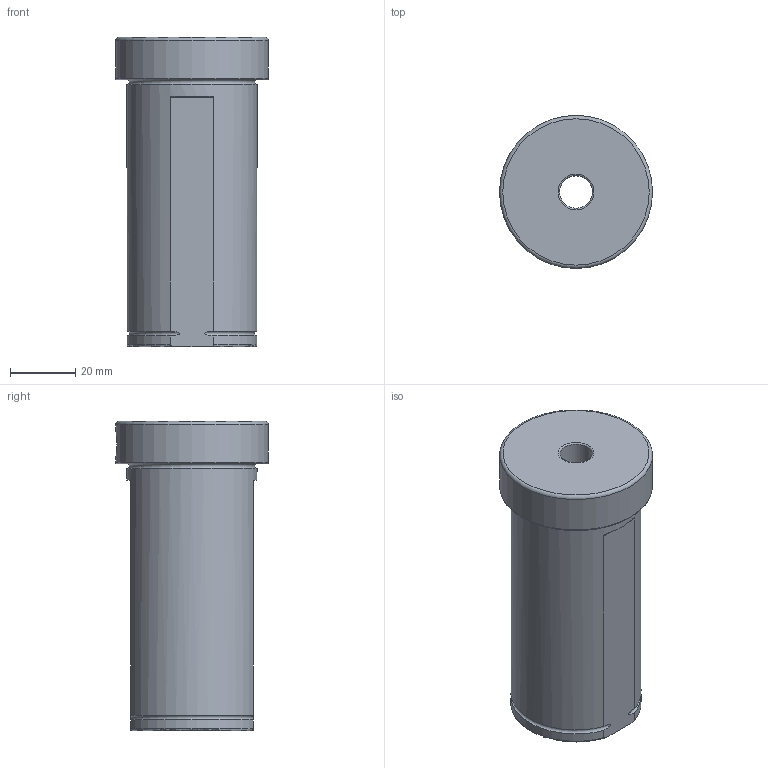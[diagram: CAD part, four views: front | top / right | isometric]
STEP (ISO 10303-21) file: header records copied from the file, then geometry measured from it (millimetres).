
FILE_DESCRIPTION(/* description */ (''),/* implementation_level */ '2;1');
FILE_NAME(/* name */ '',/* time_stamp */ '2025-04-15T11:58:49+03:00',/* author */ ('User'),/* organization */ (''),/* preprocessor_version */ 'ST-DEVELOPER v19.2',/* originating_system */ 'Autodesk Inventor 2024',/* authorisation */ '');
FILE_SCHEMA (('AUTOMOTIVE_DESIGN { 1 0 10303 214 3 1 1 }'));
Length unit declared in the file: millimetre
Products named in the file (1): Втулка переходная 
D40-d6
Bounding box: 47 x 47 x 95 mm (x, y, z)
Volume: 92126.8 mm3; surface area: 21810.1 mm2
Topology: 1 solids, 1 shells, 61 faces, 147 edges, 98 vertices
Faces by surface type: plane 35, cylinder 14, torus 11, bspline 1
Full cylindrical faces by diameter (mm): 6 x3, 8 x3, 10 x1, 25 x1, 40 x1, 47 x1
Entity records: 2152 total; most frequent: CARTESIAN_POINT 605, DIRECTION 303, ORIENTED_EDGE 294, EDGE_CURVE 147, AXIS2_PLACEMENT_3D 112, VERTEX_POINT 98, LINE 79, VECTOR 79
